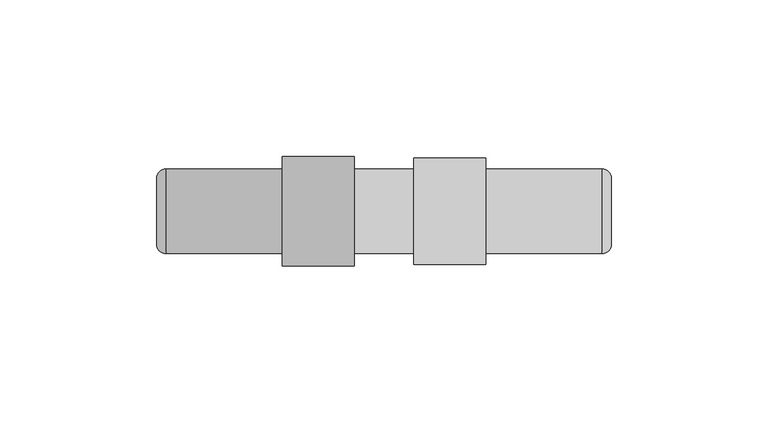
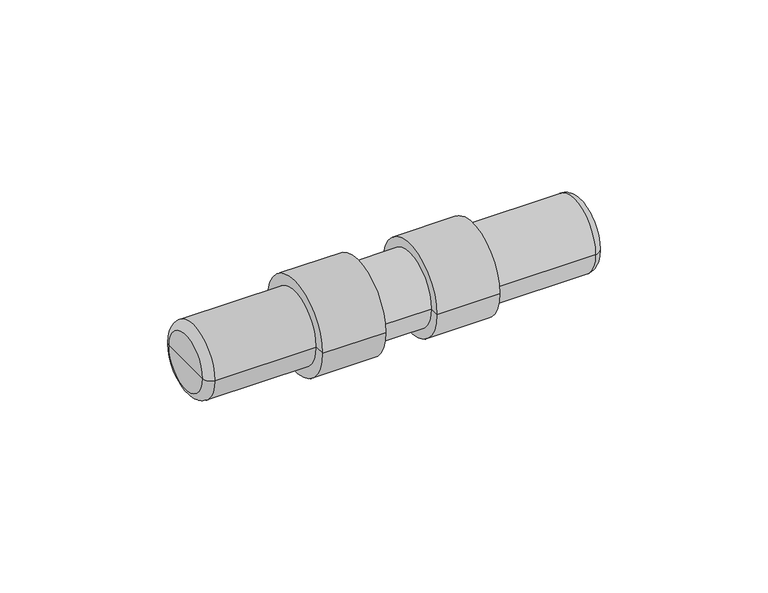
"""IFC4 building model written with IfcOpenShell, lengths in millimetres: cable carrier fitting geometry, DEVI EasyConnect EC-1 : DEVI EasyConnect EC-1_98300870."""

from ifc_helpers import new_model, si_unit, point, frame, origin, place, context, project, spatial, circle_curve, ellipse_curve, trimmed, source, transform, mapped, element, save
from ifc_brep_helpers import plane_surface, cylinder_surface, revolved_surface, advanced_brep


def cable_carrier_fitting_3c55ed5f(model_context):
    return source(origin(), model_context, "Body", "AdvancedBrep", [
        advanced_brep(
        [(63.0, 13.5, 0.0), (63.0, -13.5, 0.0), (63.0, 0.0, 0.0), (82.0, 13.5, 0.0), (82.0, -13.5, 0.0), (82.0, 17.0, 0.0), (82.0, -17.0, 0.0), (105.0, 17.0, 0.0), (105.0, -17.0, 0.0), (105.0, 13.5, 0.0), (105.0, -13.5, 0.0), (142.0, 13.5, 0.0), (142.0, -13.5, 0.0), (145.0, 0.0, 0.0), (145.0, -10.5, 0.0), (145.0, 10.5, 0.0)],
        [
            (0, 1, circle_curve(frame((63.0, 0.0, 0.0), z_axis=(-1.0, 0.0, 0.0), x_axis=(0.0, -1.0, 0.0)), 13.5)),
            (1, 2),
            (2, 0),
            (1, 0, circle_curve(frame((63.0, 0.0, 0.0), z_axis=(-1.0, 0.0, 0.0), x_axis=(0.0, -1.0, 0.0)), 13.5)),
            (3, 4, circle_curve(frame((82.0, 0.0, 0.0), z_axis=(-1.0, 0.0, 0.0), x_axis=(0.0, -1.0, 0.0)), 13.5)),
            (4, 1),
            (0, 3),
            (4, 3, circle_curve(frame((82.0, 0.0, 0.0), z_axis=(-1.0, 0.0, 0.0), x_axis=(0.0, -1.0, 0.0)), 13.5)),
            (5, 6, circle_curve(frame((82.0, 0.0, 0.0), z_axis=(-1.0, 0.0, 0.0), x_axis=(0.0, -1.0, 0.0)), 17.0)),
            (6, 4),
            (3, 5),
            (6, 5, circle_curve(frame((82.0, 0.0, 0.0), z_axis=(-1.0, 0.0, 0.0), x_axis=(0.0, -1.0, 0.0)), 17.0)),
            (7, 8, circle_curve(frame((105.0, 0.0, 0.0), z_axis=(-1.0, 0.0, 0.0), x_axis=(0.0, -1.0, 0.0)), 17.0)),
            (8, 6),
            (5, 7),
            (8, 7, circle_curve(frame((105.0, 0.0, 0.0), z_axis=(-1.0, 0.0, 0.0), x_axis=(0.0, -1.0, 0.0)), 17.0)),
            (9, 10, circle_curve(frame((105.0, 0.0, 0.0), z_axis=(-1.0, 0.0, 0.0), x_axis=(0.0, -1.0, 0.0)), 13.5)),
            (10, 8),
            (7, 9),
            (10, 9, circle_curve(frame((105.0, 0.0, 0.0), z_axis=(-1.0, 0.0, 0.0), x_axis=(0.0, -1.0, 0.0)), 13.5)),
            (11, 12, circle_curve(frame((142.0, 0.0, 0.0), z_axis=(-1.0, 0.0, 0.0), x_axis=(0.0, -1.0, 0.0)), 13.5)),
            (12, 10),
            (9, 11),
            (12, 11, circle_curve(frame((142.0, 0.0, 0.0), z_axis=(-1.0, 0.0, 0.0), x_axis=(0.0, -1.0, 0.0)), 13.5)),
            (13, 14),
            (14, 15, circle_curve(frame((145.0, 0.0, 0.0), z_axis=(1.0, 0.0, 0.0), x_axis=(0.0, -1.0, 0.0)), 10.5)),
            (15, 13),
            (15, 14, circle_curve(frame((145.0, 0.0, 0.0), z_axis=(1.0, 0.0, 0.0), x_axis=(0.0, -1.0, 0.0)), 10.5)),
            (14, 12, circle_curve(frame((142.0, -10.5, 0.0), z_axis=(0.0, 0.0, -1.0), x_axis=(-1.0, 0.0, 0.0)), 3.0)),
            (11, 15, circle_curve(frame((142.0, 10.5, 0.0), z_axis=(0.0, 0.0, -1.0), x_axis=(-1.0, 0.0, 0.0)), 3.0)),
        ],
        [
            plane_surface(frame((63.0, 0.0, 0.0), z_axis=(-1.0, 0.0, 0.0), x_axis=(0.0, -1.0, 0.0))),
            cylinder_surface(frame((170.0, 0.0, 0.0), z_axis=(1.0, 0.0, 0.0), x_axis=(0.0, -1.0, 0.0)), 13.5),
            plane_surface(frame((82.0, 0.0, 0.0), z_axis=(-1.0, 0.0, 0.0), x_axis=(0.0, -1.0, 0.0))),
            cylinder_surface(frame((170.0, 0.0, 0.0), z_axis=(1.0, 0.0, 0.0), x_axis=(0.0, -1.0, 0.0)), 17.0),
            plane_surface(frame((105.0, 0.0, 0.0), z_axis=(1.0, 0.0, 0.0), x_axis=(0.0, -1.0, 0.0))),
            plane_surface(frame((145.0, 0.0, 0.0), z_axis=(1.0, 0.0, 0.0), x_axis=(0.0, -1.0, 0.0))),
            revolved_surface(trimmed(ellipse_curve(frame((142.0, -10.5, 0.0), z_axis=(0.0, 0.0, 1.0), x_axis=(-1.0, 0.0, 0.0)), 3.0, 3.0), [point((142.0, -13.5, 0.0))], [point((145.0, -10.5, 0.0))], True, "CARTESIAN"), (170.0, 0.0, 0.0), (1.0, 0.0, 0.0)),
        ],
        [
            (0, [[1, 2, 3]]),
            (0, [[4, -3, -2]]),
            (1, [[5, 6, -1, 7]]),
            (1, [[8, -7, -4, -6]]),
            (2, [[9, 10, -5, 11]]),
            (2, [[12, -11, -8, -10]]),
            (3, [[13, 14, -9, 15]]),
            (3, [[16, -15, -12, -14]]),
            (4, [[17, 18, -13, 19]]),
            (4, [[20, -19, -16, -18]]),
            (1, [[21, 22, -17, 23]]),
            (1, [[24, -23, -20, -22]]),
            (5, [[25, 26, 27]]),
            (5, [[-27, 28, -25]]),
            (6, [[-26, 29, -21, 30]]),
            (6, [[-28, -30, -24, -29]]),
        ],
    ),
        advanced_brep(
        [(79.0, -7.0, 0.0), (79.0, 7.0, 0.0), (79.0, 0.0, 0.0), (63.0, -7.0, 0.0), (63.0, 7.0, 0.0), (63.0, -17.5, 0.0), (63.0, 17.5, 0.0), (40.0, -17.5, 0.0), (40.0, 17.5, 0.0), (40.0, -13.5, 0.0), (40.0, 13.5, 0.0), (3.0, -13.5, 0.0), (3.0, 13.5, 0.0), (0.0, 0.0, 0.0), (0.0, 10.5, 0.0), (0.0, -10.5, 0.0)],
        [
            (0, 1, circle_curve(frame((79.0, 0.0, 0.0), z_axis=(1.0, 0.0, 0.0), x_axis=(0.0, 1.0, 0.0)), 7.0)),
            (1, 2),
            (2, 0),
            (1, 0, circle_curve(frame((79.0, 0.0, 0.0), z_axis=(1.0, 0.0, 0.0), x_axis=(0.0, 1.0, 0.0)), 7.0)),
            (3, 4, circle_curve(frame((63.0, 0.0, 0.0), z_axis=(1.0, 0.0, 0.0), x_axis=(0.0, 1.0, 0.0)), 7.0)),
            (4, 1),
            (0, 3),
            (4, 3, circle_curve(frame((63.0, 0.0, 0.0), z_axis=(1.0, 0.0, 0.0), x_axis=(0.0, 1.0, 0.0)), 7.0)),
            (5, 6, circle_curve(frame((63.0, 0.0, 0.0), z_axis=(1.0, 0.0, 0.0), x_axis=(0.0, 1.0, 0.0)), 17.5)),
            (6, 4),
            (3, 5),
            (6, 5, circle_curve(frame((63.0, 0.0, 0.0), z_axis=(1.0, 0.0, 0.0), x_axis=(0.0, 1.0, 0.0)), 17.5)),
            (7, 8, circle_curve(frame((40.0, 0.0, 0.0), z_axis=(1.0, 0.0, 0.0), x_axis=(0.0, 1.0, 0.0)), 17.5)),
            (8, 6),
            (5, 7),
            (8, 7, circle_curve(frame((40.0, 0.0, 0.0), z_axis=(1.0, 0.0, 0.0), x_axis=(0.0, 1.0, 0.0)), 17.5)),
            (9, 10, circle_curve(frame((40.0, 0.0, 0.0), z_axis=(1.0, 0.0, 0.0), x_axis=(0.0, 1.0, 0.0)), 13.5)),
            (10, 8),
            (7, 9),
            (10, 9, circle_curve(frame((40.0, 0.0, 0.0), z_axis=(1.0, 0.0, 0.0), x_axis=(0.0, 1.0, 0.0)), 13.5)),
            (11, 12, circle_curve(frame((3.0, 0.0, 0.0), z_axis=(1.0, 0.0, 0.0), x_axis=(0.0, 1.0, 0.0)), 13.5)),
            (12, 10),
            (9, 11),
            (12, 11, circle_curve(frame((3.0, 0.0, 0.0), z_axis=(1.0, 0.0, 0.0), x_axis=(0.0, 1.0, 0.0)), 13.5)),
            (13, 14),
            (14, 15, circle_curve(frame((0.0, 0.0, 0.0), z_axis=(-1.0, 0.0, 0.0), x_axis=(0.0, 1.0, 0.0)), 10.5)),
            (15, 13),
            (15, 14, circle_curve(frame((0.0, 0.0, 0.0), z_axis=(-1.0, 0.0, 0.0), x_axis=(0.0, 1.0, 0.0)), 10.5)),
            (14, 12, circle_curve(frame((3.0, 10.5, 0.0), z_axis=(0.0, 0.0, -1.0), x_axis=(1.0, 0.0, 0.0)), 3.0)),
            (11, 15, circle_curve(frame((3.0, -10.5, 0.0), z_axis=(0.0, 0.0, -1.0), x_axis=(1.0, 0.0, 0.0)), 3.0)),
        ],
        [
            plane_surface(frame((79.0, 0.0, 0.0), z_axis=(1.0, 0.0, 0.0), x_axis=(0.0, 1.0, 0.0))),
            cylinder_surface(frame((-25.0, 0.0, 0.0), z_axis=(-1.0, 0.0, 0.0), x_axis=(0.0, 1.0, 0.0)), 7.0),
            plane_surface(frame((63.0, 0.0, 0.0), z_axis=(1.0, 0.0, 0.0), x_axis=(0.0, 1.0, 0.0))),
            cylinder_surface(frame((-25.0, 0.0, 0.0), z_axis=(-1.0, 0.0, 0.0), x_axis=(0.0, 1.0, 0.0)), 17.5),
            plane_surface(frame((40.0, 0.0, 0.0), z_axis=(-1.0, 0.0, 0.0), x_axis=(0.0, 1.0, 0.0))),
            cylinder_surface(frame((-25.0, 0.0, 0.0), z_axis=(-1.0, 0.0, 0.0), x_axis=(0.0, 1.0, 0.0)), 13.5),
            plane_surface(frame((0.0, 0.0, 0.0), z_axis=(-1.0, 0.0, 0.0), x_axis=(0.0, 1.0, 0.0))),
            revolved_surface(trimmed(ellipse_curve(frame((3.0, 10.5, 0.0), z_axis=(0.0, 0.0, 1.0), x_axis=(1.0, 0.0, 0.0)), 3.0, 3.0), [point((3.0, 13.5, 0.0))], [point((0.0, 10.5, 0.0))], True, "CARTESIAN"), (-25.0, 0.0, 0.0), (-1.0, 0.0, 0.0)),
        ],
        [
            (0, [[1, 2, 3]]),
            (0, [[4, -3, -2]]),
            (1, [[5, 6, -1, 7]]),
            (1, [[8, -7, -4, -6]]),
            (2, [[9, 10, -5, 11]]),
            (2, [[12, -11, -8, -10]]),
            (3, [[13, 14, -9, 15]]),
            (3, [[16, -15, -12, -14]]),
            (4, [[17, 18, -13, 19]]),
            (4, [[20, -19, -16, -18]]),
            (5, [[21, 22, -17, 23]]),
            (5, [[24, -23, -20, -22]]),
            (6, [[25, 26, 27]]),
            (6, [[-27, 28, -25]]),
            (7, [[-26, 29, -21, 30]]),
            (7, [[-28, -30, -24, -29]]),
        ],
    ),
    ])


if __name__ == "__main__":
    model = new_model("IFC4")
    model_context = context("Model", 3, world=origin())
    ifc_project = project(units=[si_unit("LENGTHUNIT", "METRE", prefix="MILLI")], contexts=[model_context])
    site = spatial("IfcSite", under=ifc_project)
    building = spatial("IfcBuilding", under=site)
    placement = place(None, origin())
    cable_carrier_fitting_shape = cable_carrier_fitting_3c55ed5f(model_context)
    element("IfcCableCarrierFitting", 1, ObjectType="DEVI EasyConnect EC-1 : DEVI EasyConnect EC-1_98300870", at=placement, inside=building, context=model_context, shape_type="MappedRepresentation", body=[
        mapped(cable_carrier_fitting_shape, transform((0.0, 0.0, 0.0), x_axis=(1.0, 0.0, 0.0), y_axis=(0.0, 1.0, 0.0), z_axis=(0.0, 0.0, 1.0))),
    ])
    save(model, "model.ifc")
